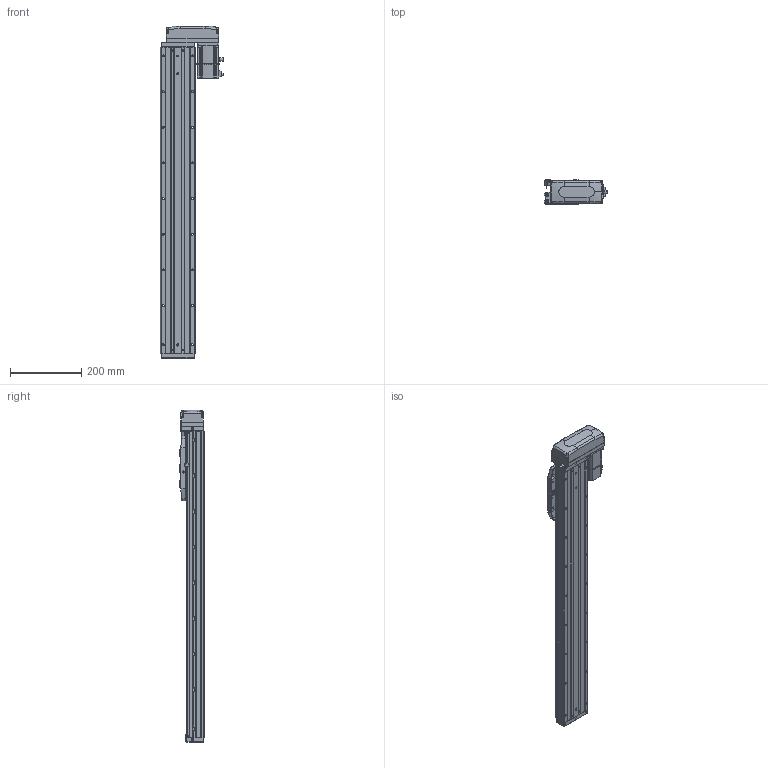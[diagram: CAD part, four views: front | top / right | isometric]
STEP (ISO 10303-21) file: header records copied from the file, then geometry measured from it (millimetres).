
FILE_DESCRIPTION (( 'STEP AP203' ), '1' );
FILE_NAME ('CTHA100-650-BL-M20-C4L.step', '2022-07-06T08:58:12', ( '微软用户' ), ( '微软中国' ), 'SwSTEP 2.0', 'SolidWorks 2020', '' );
FILE_SCHEMA (( 'CONFIG_CONTROL_DESIGN' ));
Length unit declared in the file: millimetre
Products named in the file (19): KTHA100-004; GBT 70.1-M3℅6; GBT 70.3-M3℅6; KTHA100-005; GBT70.1 M5℅16; CTHA86-015-1_CTHA86-015-2; GB¨uT 70.2-M3¡Á5_M3¡Á6; CTHA60-016; CTHA86-033; EE_SX911P_R; _X2_4E0983F1_X0_200W_1; CTHA100-650-BL-M20-C4L; CTHA60-017; CTHA100-002; CTHA60-021; CTHA100-031; KTHA100-001_860; GBT77-2000 M3×3; CTHA86-030
Assembly tree (64 placements, depth 2):
  CTHA100-650-BL-M20-C4L
    KTHA100-001_860
    KTHA100-004
    KTHA100-005
    GB¨uT 70.2-M3¡Á5_M3¡Á6  x10
    EE_SX911P_R  x3
    CTHA60-017  x3
    CTHA60-021  x2
    GBT77-2000 M3×3  x6
    GBT 70.1-M3℅6  x10
    GBT70.1 M5℅16  x14
    CTHA60-016  x2
    _X2_4E0983F1_X0_200W_1
    CTHA100-002
    CTHA100-031
    CTHA86-030  x2
    GBT 70.3-M3℅6  x4
    CTHA86-015-1_CTHA86-015-2
    CTHA86-033
Bounding box: 177.7 x 68 x 931 mm (x, y, z)
Volume: 3915309 mm3; surface area: 660881.6 mm2
Topology: 66 solids, 66 shells, 2689 faces, 6471 edges, 4012 vertices
Faces by surface type: plane 1404, cylinder 707, cone 355, torus 124, bspline 75, sphere 24
Entity records: 46638 total; most frequent: CARTESIAN_POINT 9147, DIRECTION 7204, ORIENTED_EDGE 7058, EDGE_CURVE 3529, AXIS2_PLACEMENT_3D 2441, LINE 2322, VECTOR 2322, VERTEX_POINT 2232
